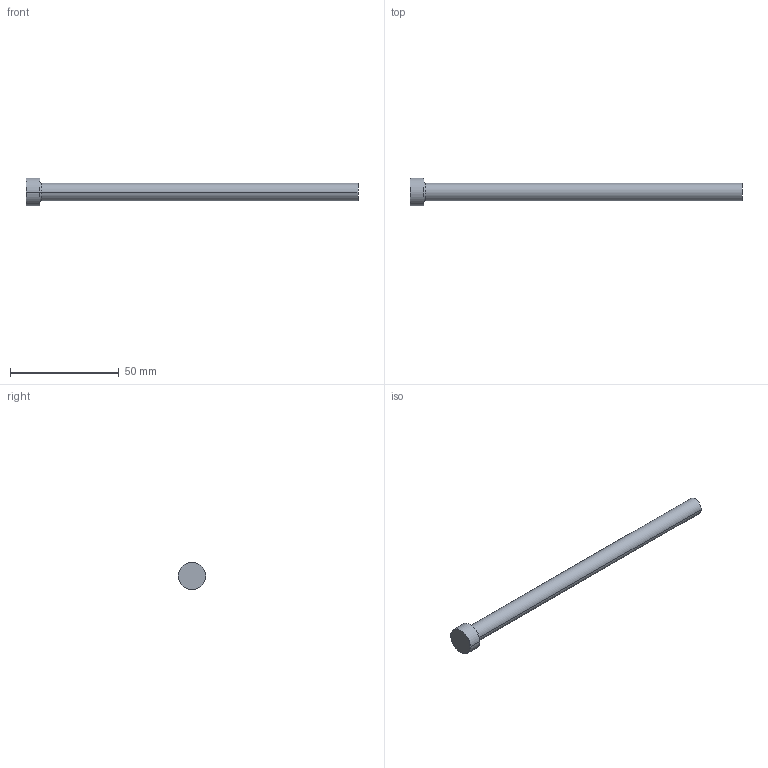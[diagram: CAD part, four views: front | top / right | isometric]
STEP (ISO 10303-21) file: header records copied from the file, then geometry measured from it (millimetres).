
FILE_DESCRIPTION (( 'STEP AP214' ), '1' );
FILE_NAME ('P21-6.STEP', '2020-03-12T09:27:16', ( '' ), ( '' ), 'SwSTEP 2.0', 'SolidWorks 2018', '' );
FILE_SCHEMA (( 'AUTOMOTIVE_DESIGN' ));
Length unit declared in the file: inch
Products named in the file (1): P21-6
Bounding box: 152.4 x 12.7 x 12.7 mm (x, y, z)
Volume: 8020.4 mm3; surface area: 4132.5 mm2
Topology: 1 solids, 1 shells, 13 faces, 24 edges, 14 vertices
Faces by surface type: cone 4, cylinder 4, plane 3, torus 2
Entity records: 366 total; most frequent: DIRECTION 68, CARTESIAN_POINT 52, ORIENTED_EDGE 48, AXIS2_PLACEMENT_3D 30, EDGE_CURVE 24, CIRCLE 16, EDGE_LOOP 14, VERTEX_POINT 14
